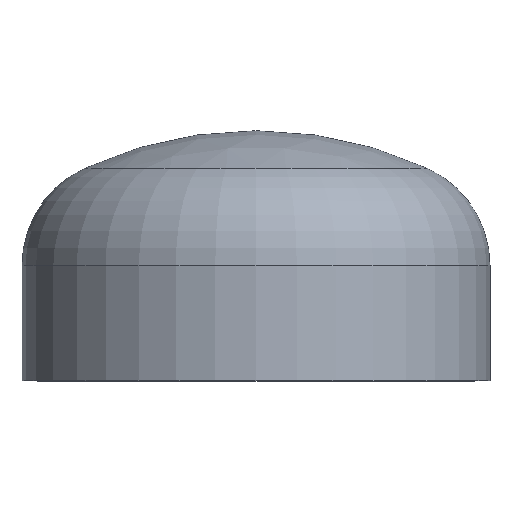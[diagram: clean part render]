
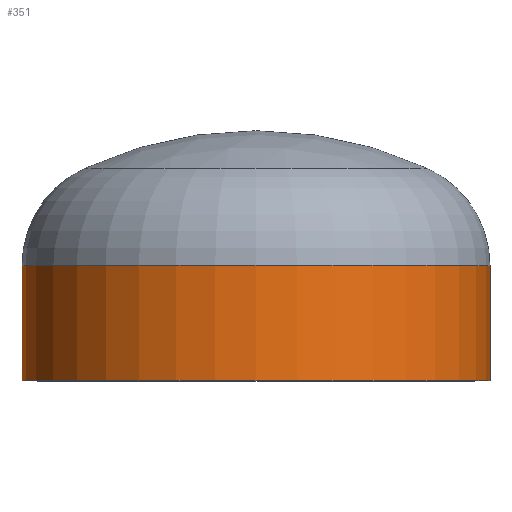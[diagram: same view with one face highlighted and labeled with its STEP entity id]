
A CAD part, top view. The second image highlights one B-rep face of the part: STEP entity #351.
In plain terms, the highlighted cylindrical face has radius 203.2 mm (diameter 406.4 mm), a partial arc.
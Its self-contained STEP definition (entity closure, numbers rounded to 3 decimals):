
#7 = ORIENTED_EDGE ( 'NONE', *, *, #58, .T. ) ;
#8 = AXIS2_PLACEMENT_3D ( 'NONE', #102, #324, #144 ) ;
#30 = CARTESIAN_POINT ( 'NONE',  ( 0., 0., 0. ) ) ;
#33 = VERTEX_POINT ( 'NONE', #400 ) ;
#53 = CIRCLE ( 'NONE', #57, 203.2 ) ;
#57 = AXIS2_PLACEMENT_3D ( 'NONE', #143, #177, #174 ) ;
#58 = EDGE_CURVE ( 'NONE', #33, #191, #53, .T. ) ;
#80 = VERTEX_POINT ( 'NONE', #163 ) ;
#86 = FACE_OUTER_BOUND ( 'NONE', #251, .T. ) ;
#91 = AXIS2_PLACEMENT_3D ( 'NONE', #30, #320, #221 ) ;
#101 = CARTESIAN_POINT ( 'NONE',  ( 203.2, 0., 0. ) ) ;
#102 = CARTESIAN_POINT ( 'NONE',  ( 0., 0., 0. ) ) ;
#128 = ORIENTED_EDGE ( 'NONE', *, *, #359, .F. ) ;
#140 = CARTESIAN_POINT ( 'NONE',  ( -203.2, 0., 0. ) ) ;
#142 = CARTESIAN_POINT ( 'NONE',  ( -203.2, 0., 0. ) ) ;
#143 = CARTESIAN_POINT ( 'NONE',  ( 0., 100., 0. ) ) ;
#144 = DIRECTION ( 'NONE',  ( 1., 0., 0. ) ) ;
#163 = CARTESIAN_POINT ( 'NONE',  ( 203.2, 0., 0. ) ) ;
#173 = ORIENTED_EDGE ( 'NONE', *, *, #356, .F. ) ;
#174 = DIRECTION ( 'NONE',  ( 1., 0., 0. ) ) ;
#177 = DIRECTION ( 'NONE',  ( 0., -1., 0. ) ) ;
#185 = DIRECTION ( 'NONE',  ( 0., -1., 0. ) ) ;
#190 = LINE ( 'NONE', #142, #377 ) ;
#191 = VERTEX_POINT ( 'NONE', #399 ) ;
#221 = DIRECTION ( 'NONE',  ( 1., 0., 0. ) ) ;
#251 = EDGE_LOOP ( 'NONE', ( #7, #280, #128, #173 ) ) ;
#276 = VECTOR ( 'NONE', #299, 1000. ) ;
#280 = ORIENTED_EDGE ( 'NONE', *, *, #363, .T. ) ;
#284 = CIRCLE ( 'NONE', #8, 203.2 ) ;
#299 = DIRECTION ( 'NONE',  ( 0., -1., 0. ) ) ;
#320 = DIRECTION ( 'NONE',  ( 0., -1., 0. ) ) ;
#324 = DIRECTION ( 'NONE',  ( 0., -1., 0. ) ) ;
#331 = CYLINDRICAL_SURFACE ( 'NONE', #91, 203.2 ) ;
#334 = VERTEX_POINT ( 'NONE', #140 ) ;
#337 = LINE ( 'NONE', #101, #276 ) ;
#351 = ADVANCED_FACE ( 'NONE', ( #86 ), #331, .T. ) ;
#356 = EDGE_CURVE ( 'NONE', #33, #80, #337, .T. ) ;
#359 = EDGE_CURVE ( 'NONE', #80, #334, #284, .T. ) ;
#363 = EDGE_CURVE ( 'NONE', #191, #334, #190, .T. ) ;
#377 = VECTOR ( 'NONE', #185, 1000. ) ;
#399 = CARTESIAN_POINT ( 'NONE',  ( -203.2, 100., 0. ) ) ;
#400 = CARTESIAN_POINT ( 'NONE',  ( 203.2, 100., 0. ) ) ;
